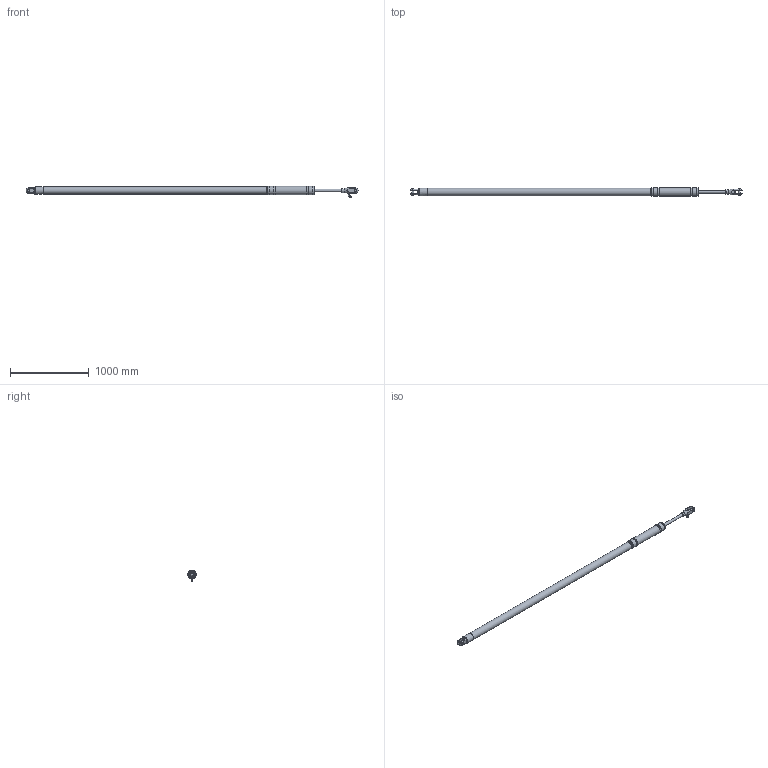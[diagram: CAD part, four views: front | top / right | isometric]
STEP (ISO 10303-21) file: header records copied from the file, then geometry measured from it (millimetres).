
FILE_DESCRIPTION(/* description */ (''),/* implementation_level */ '2;1');
FILE_NAME(/* name */ 'Q:\AA BRAND HYDRAULICS\HYDRAULICS FAMILY DIRECTORY\HYDRAULICS\CYLINDERS\VANGS\ALUMINIUM SINGLE ACTING - STAINLESS ON REQUEST (-0010 To -0150)\VSA-0048-S350-NP-71-L3800\VSA-0048-S350-NP-71-L3800 (Open).stp',/* time_stamp */ '2018-03-28T14:21:18+01:00',/* author */ ('Lorena'),/* organization */ (''),/* preprocessor_version */ 'ST-DEVELOPER v17',/* originating_system */ 'Autodesk Inventor 2018',/* authorisation */ '');
FILE_SCHEMA (('AUTOMOTIVE_DESIGN { 1 0 10303 214 3 1 1 }'));
Length unit declared in the file: millimetre
Products named in the file (1): VSA-0048-S350-NP-71-L3800 (Open)
Bounding box: 4219.59 x 107.2 x 144.65 mm (x, y, z)
Volume: 28314066.3 mm3; surface area: 1255453.8 mm2
Topology: 2 solids, 6 shells, 1695 faces, 4523 edges, 2990 vertices
Faces by surface type: plane 963, bspline 578, cylinder 83, cone 63, torus 4, sphere 4
Full cylindrical faces by diameter (mm): 5 x5, 6 x2, 6.5 x2, 7.5 x1, 8 x2, 8.1 x1, 9 x2, 14 x1, 14.35 x1, 14.662 x1, 15 x3, 15.662 x1, 16 x2, 16.662 x2, 18 x2, 21.4 x3, 25.4 x2, 26 x1, 27 x1, 28 x1, 31.75 x2, 35 x1, 37 x1, 51 x1, 89.5 x1, 90 x1, 97 x2, 102.6 x1, 104.2 x1, 107.2 x4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
Entity records: 61734 total; most frequent: CARTESIAN_POINT 21532, ORIENTED_EDGE 9034, DIRECTION 5867, EDGE_CURVE 4517, VERTEX_POINT 2993, LINE 2903, VECTOR 2903, EDGE_LOOP 1870
